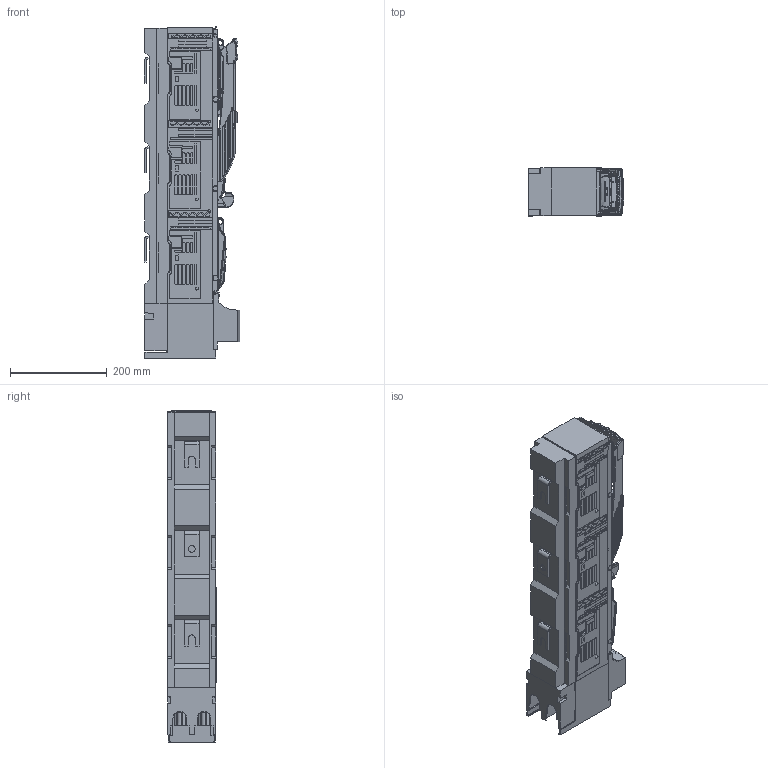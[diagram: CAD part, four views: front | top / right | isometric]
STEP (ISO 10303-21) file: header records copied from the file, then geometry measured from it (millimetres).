
FILE_DESCRIPTION(/* description */ (''),/* implementation_level */ '2;1');
FILE_NAME(/* name */ 'smartARS 2_3-6-V pro PV.stp',/* time_stamp */ '2022-11-03T08:14:48+01:00',/* author */ (''),/* organization */ (''),/* preprocessor_version */ 'ST-DEVELOPER v18.101',/* originating_system */ 'SIEMENS PLM Software NX 2008',/* authorisation */ '');
FILE_SCHEMA (('AUTOMOTIVE_DESIGN { 1 0 10303 214 3 1 1 1 }'));
Products named in the file (1): smartARS 2-6-V pro PV_stp_objects
Bounding box: 197.08 x 100.23 x 686.8 mm (x, y, z)
Volume: 8640622.2 mm3; surface area: 695929.9 mm2
Topology: 1 solids, 19 shells, 7264 faces, 19364 edges, 12166 vertices
Faces by surface type: plane 2970, cylinder 2267, torus 879, bspline 702, cone 207, sphere 187, extrusion 35, revolution 17
Full cylindrical faces by diameter (mm): 3 x4, 3.5 x4, 3.7 x4, 6.5 x1, 8 x1, 9.5 x4, 9.6 x2, 14 x1
Entity records: 296832 total; most frequent: CARTESIAN_POINT 137439, ORIENTED_EDGE 38276, DIRECTION 25167, EDGE_CURVE 19138, VERTEX_POINT 12143, B_SPLINE_CURVE_WITH_KNOTS 8968, AXIS2_PLACEMENT_3D 8725, VECTOR 7700
